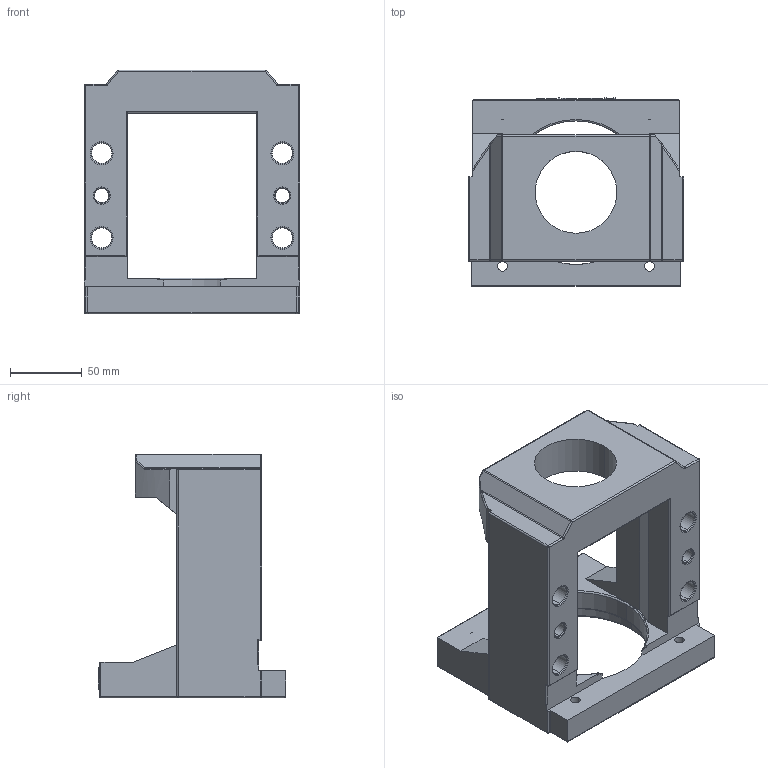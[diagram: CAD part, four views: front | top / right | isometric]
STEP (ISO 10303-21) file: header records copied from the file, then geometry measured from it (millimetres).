
FILE_DESCRIPTION((''),'2;1');
FILE_NAME('M130G-FK20B-B','2019-04-20T',('ASUS'),(''),'PRO/ENGINEER BY PARAMETRIC TECHNOLOGY CORPORATION, 2010280','PRO/ENGINEER BY PARAMETRIC TECHNOLOGY CORPORATION, 2010280','');
FILE_SCHEMA(('CONFIG_CONTROL_DESIGN'));
Length unit declared in the file: millimetre
Products named in the file (1): M130G-FK20B-B
Bounding box: 150 x 131 x 170 mm (x, y, z)
Volume: 828983.8 mm3; surface area: 130683.8 mm2
Topology: 1 solids, 1 shells, 361 faces, 928 edges, 566 vertices
Faces by surface type: plane 124, cylinder 97, torus 55, extrusion 47, cone 20, sphere 14, bspline 4
Entity records: 11737 total; most frequent: CARTESIAN_POINT 3081, ORIENTED_EDGE 1812, DIRECTION 1720, EDGE_CURVE 906, AXIS2_PLACEMENT_3D 599, VERTEX_POINT 566, VECTOR 522, LINE 475
